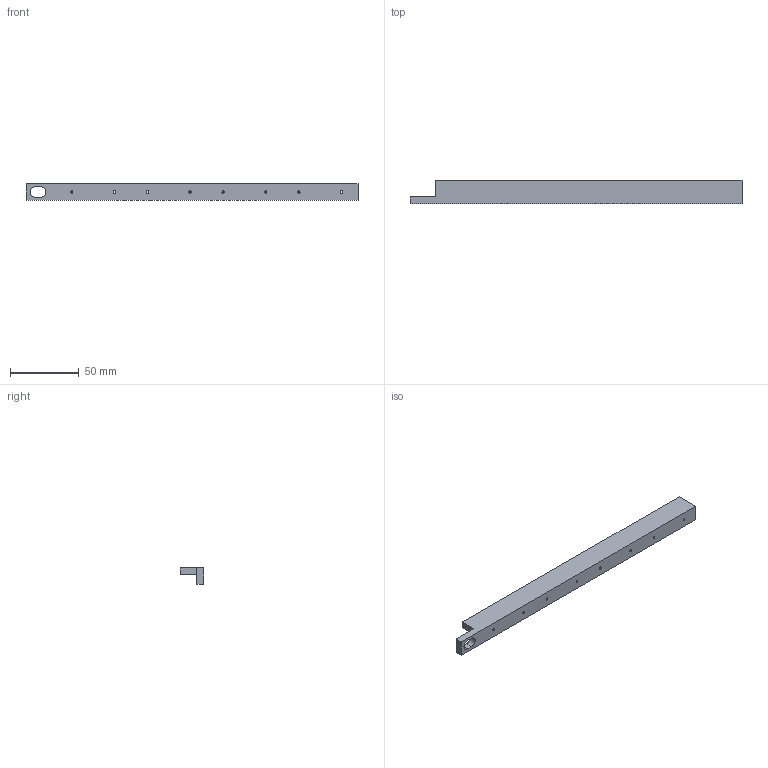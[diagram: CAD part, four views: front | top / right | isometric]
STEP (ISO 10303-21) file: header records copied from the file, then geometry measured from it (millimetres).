
FILE_DESCRIPTION(('FreeCAD Model'),'2;1');
FILE_NAME('Open CASCADE Shape Model','2026-01-10T18:19:52',(''),(''), 'Open CASCADE STEP processor 7.8','FreeCAD','Unknown');
FILE_SCHEMA(('AUTOMOTIVE_DESIGN { 1 0 10303 214 1 1 1 1 }'));
Length unit declared in the file: millimetre
Products named in the file (1): Slice.1
Bounding box: 241.3 x 17 x 12 mm (x, y, z)
Volume: 27396.3 mm3; surface area: 13983 mm2
Topology: 1 solids, 1 shells, 21 faces, 57 edges, 38 vertices
Faces by surface type: plane 11, cylinder 10
Full cylindrical faces by diameter (mm): 1.7 x8
Entity records: 729 total; most frequent: DIRECTION 121, CARTESIAN_POINT 117, ORIENTED_EDGE 114, EDGE_CURVE 57, AXIS2_PLACEMENT_3D 42, FACE_BOUND 39, EDGE_LOOP 39, VERTEX_POINT 38
